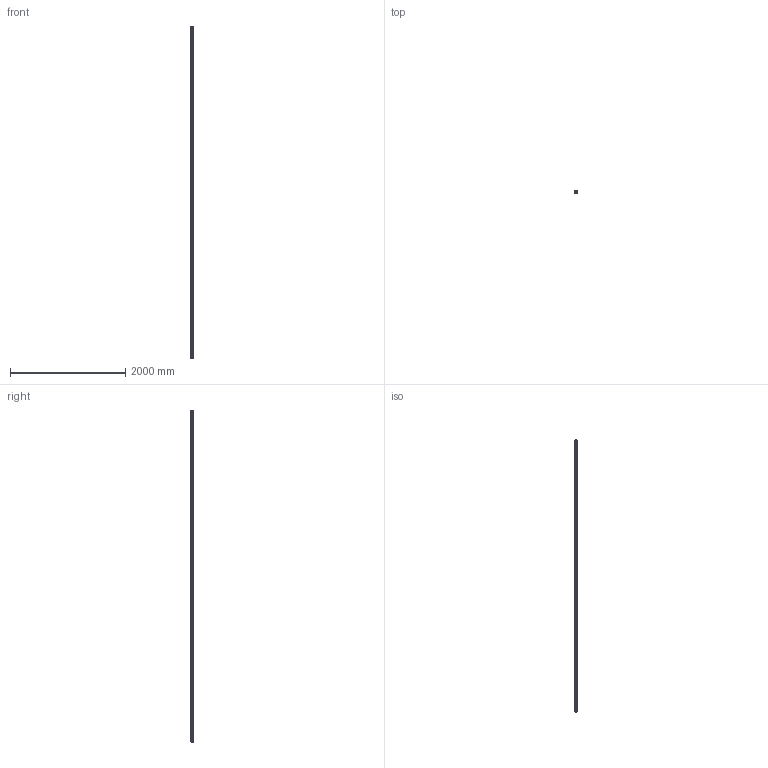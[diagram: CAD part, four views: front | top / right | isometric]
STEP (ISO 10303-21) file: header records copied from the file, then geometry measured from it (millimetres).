
FILE_DESCRIPTION((''),'2;1');
FILE_NAME('KUGELSCHIENE_CS_ASM','2021-10-14T09:55:27',('ac91sw'),(''),'CREO PARAMETRIC BY PTC INC, 2020044','CREO PARAMETRIC BY PTC INC, 2020044','');
FILE_SCHEMA(('AUTOMOTIVE_DESIGN { 1 0 10303 214 1 1 1 1 }'));
Length unit declared in the file: millimetre
Products named in the file (3): KUGELSCHIENE_CS_SKEL; KUGELSCHIENE_CS_RAIL1; KUGELSCHIENE_CS_ASM
Assembly tree (2 placements, depth 2):
  KUGELSCHIENE_CS_ASM
    KUGELSCHIENE_CS_SKEL
    KUGELSCHIENE_CS_RAIL1
Bounding box: 45 x 39.85 x 5771 mm (x, y, z)
Volume: 8087509.7 mm3; surface area: 1083668.3 mm2
Topology: 1 solids, 56 shells, 463 faces, 1166 edges, 705 vertices
Faces by surface type: cylinder 224, plane 121, cone 118
Entity records: 14968 total; most frequent: DIRECTION 2546, CARTESIAN_POINT 2299, ORIENTED_EDGE 1892, EDGE_CURVE 1056, AXIS2_PLACEMENT_3D 1036, VERTEX_POINT 705, EDGE_LOOP 573, CIRCLE 566
